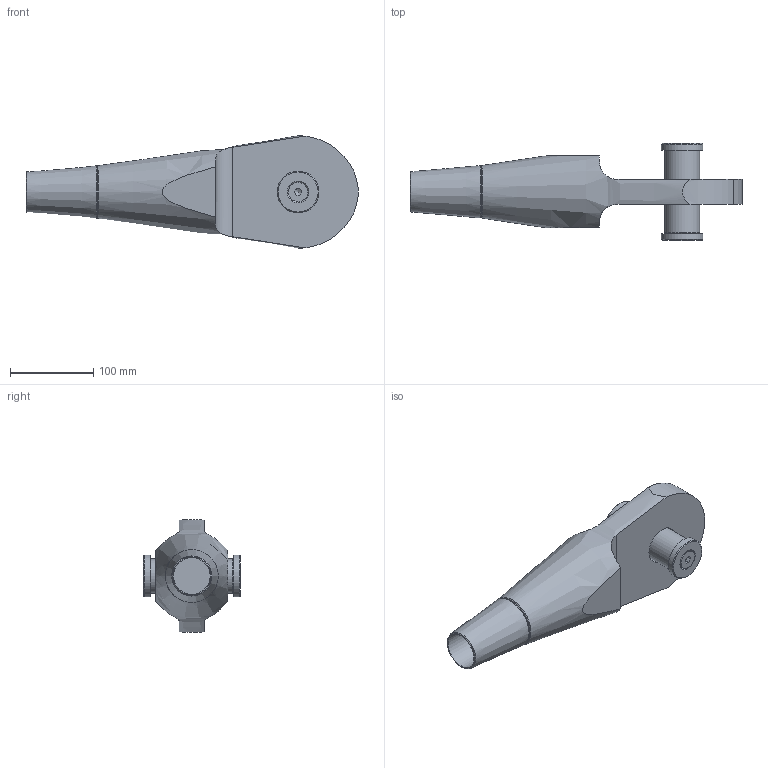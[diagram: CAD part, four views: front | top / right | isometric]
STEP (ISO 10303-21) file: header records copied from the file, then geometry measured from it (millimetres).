
FILE_DESCRIPTION(/* description */ (''),/* implementation_level */ '2;1');
FILE_NAME(/* name */ 'G:\Engineering\700 CAD\Internet-PX-1-step-igs-dxf\520-OES-Arbeitsdateien\520-042-OES.stp',/* time_stamp */ '2020-06-26T10:34:20+02:00',/* author */ ('schwarz'),/* organization */ (''),/* preprocessor_version */ 'ST-DEVELOPER v16.1',/* originating_system */ 'Autodesk Inventor 2016',/* authorisation */ '');
FILE_SCHEMA (('AUTOMOTIVE_DESIGN { 1 0 10303 214 3 1 1 }'));
Length unit declared in the file: centimetre
Products named in the file (1): 520-042-OES-KMU-Kunde
Bounding box: 397.78 x 116.44 x 134.74 mm (x, y, z)
Volume: 1608697.5 mm3; surface area: 140464.9 mm2
Topology: 2 solids, 4 shells, 49 faces, 109 edges, 71 vertices
Faces by surface type: plane 22, cylinder 14, cone 12, torus 1
Full cylindrical faces by diameter (mm): 10.106 x1, 12 x1, 13.5 x1, 23.12 x1, 42 x1, 44 x1, 45 x1, 50 x2
Entity records: 1384 total; most frequent: CARTESIAN_POINT 344, DIRECTION 198, ORIENTED_EDGE 158, AXIS2_PLACEMENT_3D 89, EDGE_CURVE 79, EDGE_LOOP 78, VERTEX_POINT 63, STYLED_ITEM 51
